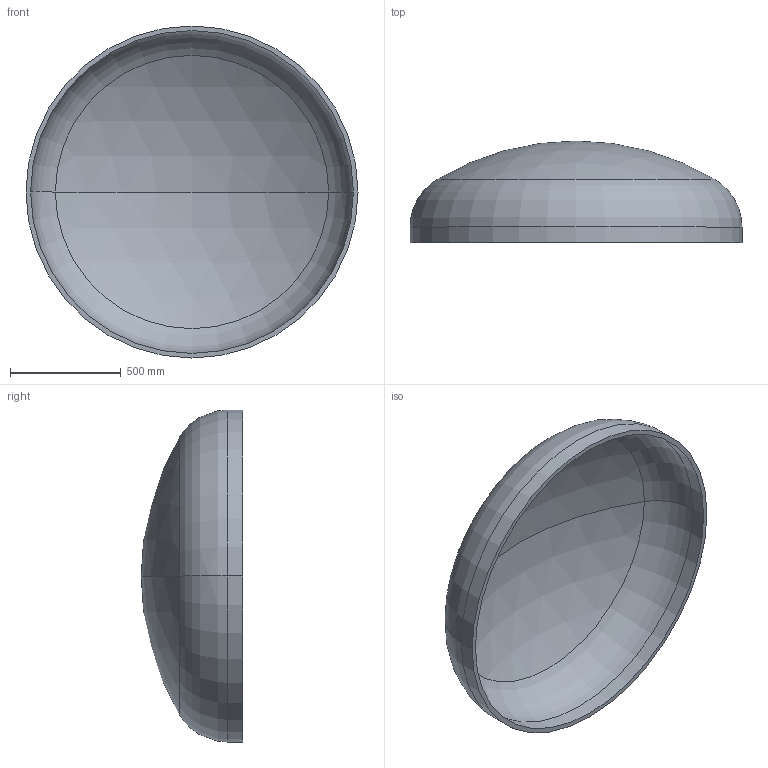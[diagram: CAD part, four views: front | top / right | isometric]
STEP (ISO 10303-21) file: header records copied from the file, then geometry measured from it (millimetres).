
FILE_DESCRIPTION (( 'STEP AP203' ), '1' );
FILE_NAME ('DIN 28013 Korbbogenform_-_Boden DIN 28013 - 1500 x 70 - I - s=21.step', '2016-07-01T10:39:02', ( '' ), ( '' ), 'SwSTEP 2.0', 'SolidWorks 2013', '' );
FILE_SCHEMA (( 'CONFIG_CONTROL_DESIGN' ));
Length unit declared in the file: millimetre
Products named in the file (1): DIN 28013 Korbbogenform_-_Boden DIN 28013 - 1500 x 70 - I - s=21
Bounding box: 1500 x 459.2 x 1500 mm (x, y, z)
Volume: 57242127.8 mm3; surface area: 5550127.7 mm2
Topology: 1 solids, 1 shells, 13 faces, 24 edges, 14 vertices
Faces by surface type: torus 4, cylinder 4, sphere 4, plane 1
Entity records: 407 total; most frequent: DIRECTION 72, CARTESIAN_POINT 52, ORIENTED_EDGE 48, AXIS2_PLACEMENT_3D 34, EDGE_CURVE 24, CIRCLE 20, EDGE_LOOP 14, VERTEX_POINT 14
